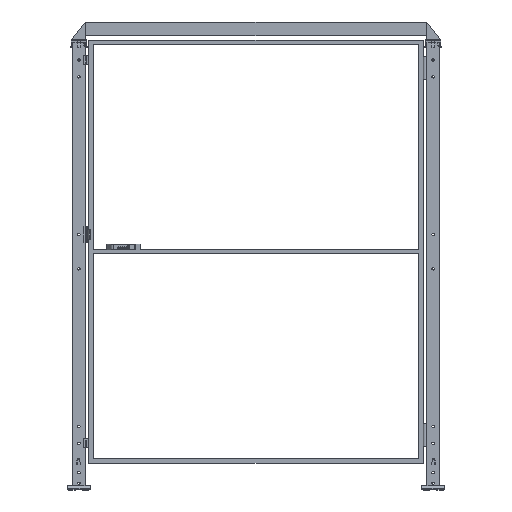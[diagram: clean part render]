
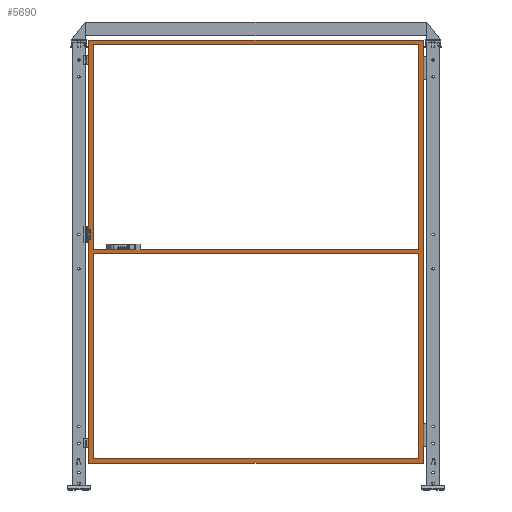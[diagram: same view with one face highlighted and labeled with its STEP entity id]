
A CAD part, top view. The second image highlights one B-rep face of the part: STEP entity #5690.
In plain terms, the highlighted planar face has unit normal (0, 0, 1).
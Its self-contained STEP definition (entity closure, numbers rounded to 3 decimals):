
#5690=ADVANCED_FACE('',(#11648,#11649,#11650),#11651,.F.);
#11648=FACE_BOUND('',#19171,.T.);
#11649=FACE_OUTER_BOUND('',#19172,.T.);
#11650=FACE_BOUND('',#19173,.T.);
#11651=PLANE('',#19174);
#19171=EDGE_LOOP('',(#35965,#35966,#35967,#35968));
#19172=EDGE_LOOP('',(#35969,#35970,#35971,#35972));
#19173=EDGE_LOOP('',(#35973,#35974,#35975,#35976));
#19174=AXIS2_PLACEMENT_3D('',#35977,#35978,#35979);
#35965=ORIENTED_EDGE('',*,*,#42847,.F.);
#35966=ORIENTED_EDGE('',*,*,#42853,.T.);
#35967=ORIENTED_EDGE('',*,*,#42875,.T.);
#35968=ORIENTED_EDGE('',*,*,#42880,.F.);
#35969=ORIENTED_EDGE('',*,*,#42891,.F.);
#35970=ORIENTED_EDGE('',*,*,#42885,.F.);
#35971=ORIENTED_EDGE('',*,*,#42855,.F.);
#35972=ORIENTED_EDGE('',*,*,#42889,.F.);
#35973=ORIENTED_EDGE('',*,*,#42877,.F.);
#35974=ORIENTED_EDGE('',*,*,#42872,.F.);
#35975=ORIENTED_EDGE('',*,*,#42883,.T.);
#35976=ORIENTED_EDGE('',*,*,#42892,.T.);
#35977=CARTESIAN_POINT('',(765.0,130.0,10.0));
#35978=DIRECTION('',(0.,0.0,-1.0));
#35979=DIRECTION('',(-1.0,0.0,0.));
#42847=EDGE_CURVE('',#52941,#52944,#52945,.T.);
#42853=EDGE_CURVE('',#52941,#52952,#52954,.T.);
#42855=EDGE_CURVE('',#52956,#52957,#52958,.T.);
#42872=EDGE_CURVE('',#52984,#52982,#52986,.T.);
#42875=EDGE_CURVE('',#52952,#52988,#52990,.T.);
#42877=EDGE_CURVE('',#52982,#52992,#52993,.T.);
#42880=EDGE_CURVE('',#52944,#52988,#52996,.T.);
#42883=EDGE_CURVE('',#52984,#52998,#53000,.T.);
#42885=EDGE_CURVE('',#52957,#53002,#53003,.T.);
#42889=EDGE_CURVE('',#53006,#52956,#53008,.T.);
#42891=EDGE_CURVE('',#53002,#53006,#53010,.T.);
#42892=EDGE_CURVE('',#52998,#52992,#53011,.T.);
#52941=VERTEX_POINT('',#68243);
#52944=VERTEX_POINT('',#68247);
#52945=LINE('',#68248,#68249);
#52952=VERTEX_POINT('',#68259);
#52954=LINE('',#68262,#68263);
#52956=VERTEX_POINT('',#68265);
#52957=VERTEX_POINT('',#68266);
#52958=LINE('',#68267,#68268);
#52982=VERTEX_POINT('',#68304);
#52984=VERTEX_POINT('',#68307);
#52986=LINE('',#68310,#68311);
#52988=VERTEX_POINT('',#68313);
#52990=LINE('',#68316,#68317);
#52992=VERTEX_POINT('',#68319);
#52993=LINE('',#68320,#68321);
#52996=LINE('',#68325,#68326);
#52998=VERTEX_POINT('',#68328);
#53000=LINE('',#68331,#68332);
#53002=VERTEX_POINT('',#68334);
#53003=LINE('',#68335,#68336);
#53006=VERTEX_POINT('',#68340);
#53008=LINE('',#68343,#68344);
#53010=LINE('',#68346,#68347);
#53011=LINE('',#68348,#68349);
#68243=CARTESIAN_POINT('',(1495.0,2000.0,10.));
#68247=CARTESIAN_POINT('',(35.,2000.0,10.0));
#68248=CARTESIAN_POINT('',(765.0,2000.0,10.0));
#68249=VECTOR('',#75637,1.0);
#68259=CARTESIAN_POINT('',(1495.0,1080.0,10.));
#68262=CARTESIAN_POINT('',(1495.0,1070.0,10.));
#68263=VECTOR('',#75642,1.0);
#68265=CARTESIAN_POINT('',(15.0,120.0,10.0));
#68266=CARTESIAN_POINT('',(15.,2020.0,10.0));
#68267=CARTESIAN_POINT('',(15.0,130.0,10.0));
#68268=VECTOR('',#75643,1.0);
#68304=CARTESIAN_POINT('',(35.,1060.0,10.0));
#68307=CARTESIAN_POINT('',(1495.0,1060.0,10.));
#68310=CARTESIAN_POINT('',(765.0,1060.0,10.0));
#68311=VECTOR('',#75658,1.0);
#68313=CARTESIAN_POINT('',(35.0,1080.0,10.0));
#68316=CARTESIAN_POINT('',(765.0,1080.0,10.0));
#68317=VECTOR('',#75660,1.0);
#68319=CARTESIAN_POINT('',(35.,140.0,10.0));
#68320=CARTESIAN_POINT('',(35.,1070.0,10.0));
#68321=VECTOR('',#75661,1.0);
#68325=CARTESIAN_POINT('',(35.,1070.0,10.0));
#68326=VECTOR('',#75663,1.0);
#68328=CARTESIAN_POINT('',(1495.0,140.0,10.));
#68331=CARTESIAN_POINT('',(1495.0,1070.0,10.));
#68332=VECTOR('',#75665,1.0);
#68334=CARTESIAN_POINT('',(1515.0,2020.0,10.));
#68335=CARTESIAN_POINT('',(25.,2020.0,10.0));
#68336=VECTOR('',#75666,1.0);
#68340=CARTESIAN_POINT('',(1515.0,120.0,10.));
#68343=CARTESIAN_POINT('',(765.0,120.0,10.0));
#68344=VECTOR('',#75669,1.0);
#68346=CARTESIAN_POINT('',(1515.0,1070.0,10.));
#68347=VECTOR('',#75670,1.0);
#68348=CARTESIAN_POINT('',(765.0,140.0,10.0));
#68349=VECTOR('',#75671,1.0);
#75637=DIRECTION('',(-1.0,0.0,0.));
#75642=DIRECTION('',(0.,-1.0,0.));
#75643=DIRECTION('',(0.0,1.0,0.0));
#75658=DIRECTION('',(-1.0,0.0,0.));
#75660=DIRECTION('',(-1.0,0.0,0.));
#75661=DIRECTION('',(0.,-1.0,0.));
#75663=DIRECTION('',(0.,-1.0,0.));
#75665=DIRECTION('',(0.,-1.0,0.));
#75666=DIRECTION('',(1.0,0.,0.));
#75669=DIRECTION('',(-1.0,0.0,0.));
#75670=DIRECTION('',(0.,-1.0,0.));
#75671=DIRECTION('',(-1.0,0.0,0.));
